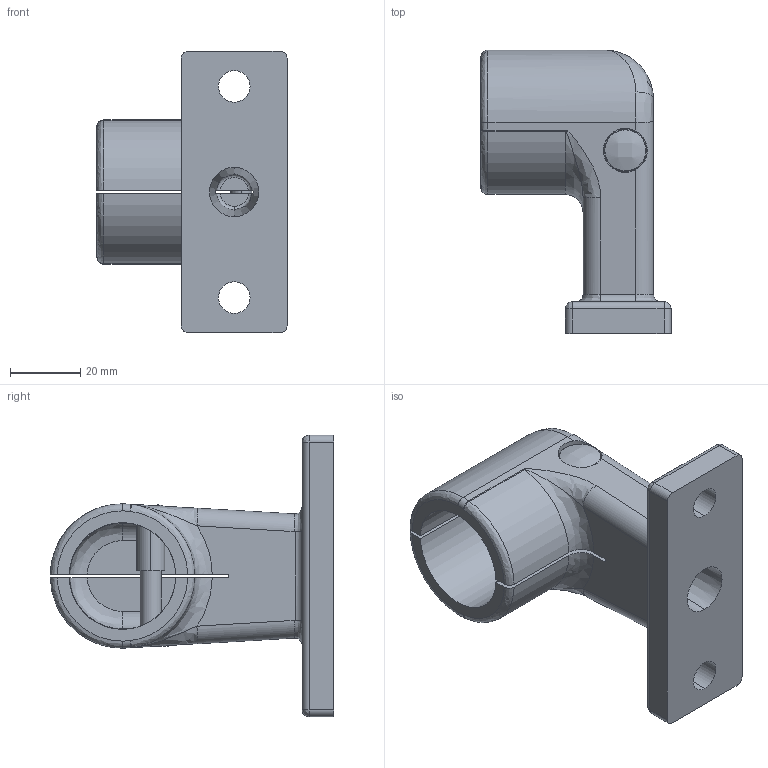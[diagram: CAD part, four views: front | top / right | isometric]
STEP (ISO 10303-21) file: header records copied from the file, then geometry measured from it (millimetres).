
FILE_DESCRIPTION (( 'STEP AP214' ), '1' );
FILE_NAME ('31000410046.STEP', '2024-09-02T09:32:55', ( '' ), ( '' ), 'SwSTEP 2.0', 'SolidWorks 2016', '' );
FILE_SCHEMA (( 'AUTOMOTIVE_DESIGN' ));
Length unit declared in the file: millimetre
Products named in the file (4): local.DIN.43.240.5; 31000410046; 2390_1-schalig; 635179_H_X_FClsenmutter
Assembly tree (3 placements, depth 2):
  31000410046
    2390_1-schalig
    635179_H_X_FClsenmutter
    local.DIN.43.240.5
Bounding box: 54 x 80.49 x 80 mm (x, y, z)
Volume: 70620.7 mm3; surface area: 26388 mm2
Topology: 3 solids, 3 shells, 148 faces, 375 edges, 229 vertices
Faces by surface type: cylinder 61, plane 45, bspline 30, cone 12
Entity records: 8062 total; most frequent: CARTESIAN_POINT 2942, ORIENTED_EDGE 734, DIRECTION 655, EDGE_CURVE 367, AXIS2_PLACEMENT_3D 249, VERTEX_POINT 229, EDGE_LOOP 162, UNCERTAINTY_MEASURE_WITH_UNIT 158
